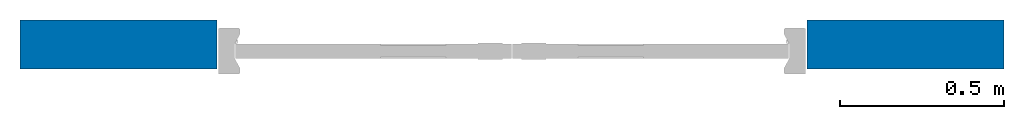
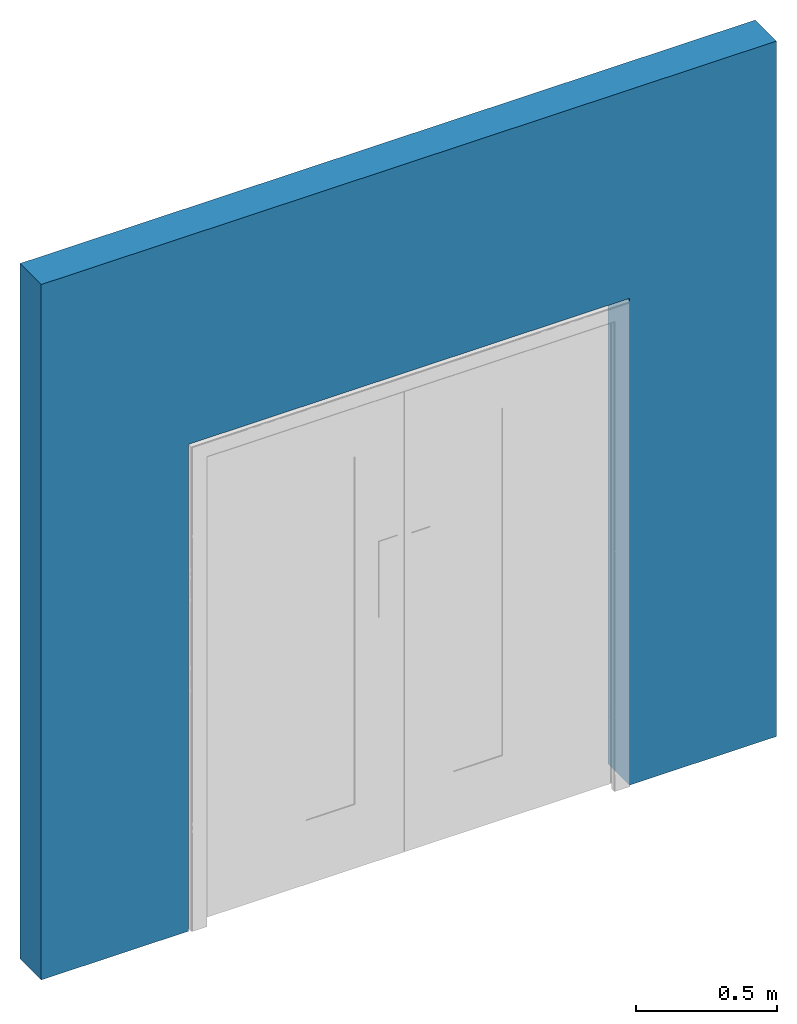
# One storey, incomplete: 1 wall, 1 opening.
"""IFC2X3 building model written with IfcOpenShell, lengths in millimetres."""

from ifc_helpers import new_model, entity, si_unit, converted_unit, derived_unit, direction, frame, frame_2d, origin, place, context, subcontext, project, spatial, rectangle, extrude, material, layer, layer_set, layer_usage, type_object, element, save


model = new_model("IFC2X3")

# Units and contexts
model_context = context("Model", 3, precision=0.01, world=origin(), true_north=direction((6.12303176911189e-17, 1.0)))
body_context = subcontext(model_context, "Body", "Model", "MODEL_VIEW")
ifc_project = project(units=[si_unit("LENGTHUNIT", "METRE", prefix="MILLI"), si_unit("AREAUNIT", "SQUARE_METRE"), si_unit("VOLUMEUNIT", "CUBIC_METRE"), converted_unit("PLANEANGLEUNIT", "DEGREE", entity("IfcRatioMeasure", 0.0174532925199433), si_unit("PLANEANGLEUNIT", "RADIAN"), dimensions=[0, 0, 0, 0, 0, 0, 0]), si_unit("MASSUNIT", "GRAM", prefix="KILO"), si_unit("TIMEUNIT", "SECOND"), si_unit("FREQUENCYUNIT", "HERTZ"), si_unit("THERMODYNAMICTEMPERATUREUNIT", "DEGREE_CELSIUS"), derived_unit("THERMALTRANSMITTANCEUNIT", [(si_unit("MASSUNIT", "GRAM", prefix="KILO"), 1), (si_unit("THERMODYNAMICTEMPERATUREUNIT", "KELVIN"), -1), (si_unit("TIMEUNIT", "SECOND"), -3)]), derived_unit("VOLUMETRICFLOWRATEUNIT", [(si_unit("LENGTHUNIT", "METRE"), 3), (si_unit("TIMEUNIT", "SECOND"), -1)]), si_unit("ELECTRICCURRENTUNIT", "AMPERE"), si_unit("ELECTRICVOLTAGEUNIT", "VOLT"), si_unit("POWERUNIT", "WATT"), si_unit("FORCEUNIT", "NEWTON", prefix="KILO"), si_unit("ILLUMINANCEUNIT", "LUX"), si_unit("LUMINOUSFLUXUNIT", "LUMEN"), si_unit("LUMINOUSINTENSITYUNIT", "CANDELA"), si_unit("PRESSUREUNIT", "PASCAL")], contexts=[model_context])

# Site, building, storey
site_placement = place(None, origin())
site = spatial("IfcSite", under=ifc_project, at=site_placement, Name="Default", CompositionType="ELEMENT")
building_placement = place(site_placement, origin())
building = spatial("IfcBuilding", under=site, at=building_placement, CompositionType="ELEMENT")
storey_placement = place(building_placement, origin())
storey = spatial("IfcBuildingStorey", under=building, at=storey_placement, Name="Level 1", CompositionType="ELEMENT", Elevation=0.0)

# Wall, opening
ifc_material = material(Name="nbl_Concept")
ifc_layer = layer(ifc_material, 150.0)
ifc_layer_set = layer_set([ifc_layer], Name="Basic Wall:NBS_Int_Concept")
ifc_layer_usage = layer_usage(ifc_layer_set, "AXIS2", "POSITIVE", -75.0)
wall_type = type_object("IfcWallType", Name="Basic Wall:NBS_Int_Concept", PredefinedType="STANDARD", material=ifc_layer_set)
wall_placement = place(storey_placement, frame((-1500.0, 0.0, 0.0)))
wall = element("IfcWallStandardCase", 1, at=wall_placement, inside=storey, type_object=wall_type, material=ifc_layer_usage, Name="Basic Wall:NBS_Int_Concept:2301", ObjectType="Basic Wall:NBS_Int_Concept:2340", context=body_context, shape_type="SweptSolid", body=[
    extrude(rectangle(XDim=3000.0, YDim=150.0, at=frame_2d((1500.0, 0.0), x_axis=(-1.0, 0.0))), origin(), (0.0, 0.0, 1.0), 3000.0),
])
opening_placement = place(wall_placement, frame((600.0, -75.0, 0.0)))
element("IfcOpeningElement", 2, at=opening_placement, cuts=wall, Name="NBS_AssaAbloyLtd_DrsetSym_AASDMetalDoubleSwingDoor_Double-VisionPanelType2:1800x2100mm:1", ObjectType="Opening", context=body_context, shape_type="SweptSolid", body=[
    extrude(rectangle(XDim=2100.0, YDim=1800.0, at=frame_2d((1050.0, 899.999999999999), x_axis=(1.0, 0.0))), frame((0.0, 0.0, 0.0), z_axis=(0.0, 1.0, 0.0), x_axis=(0.0, 0.0, 1.0)), (0.0, 0.0, 1.0), 150.0),
])

save(model, "model.ifc")
